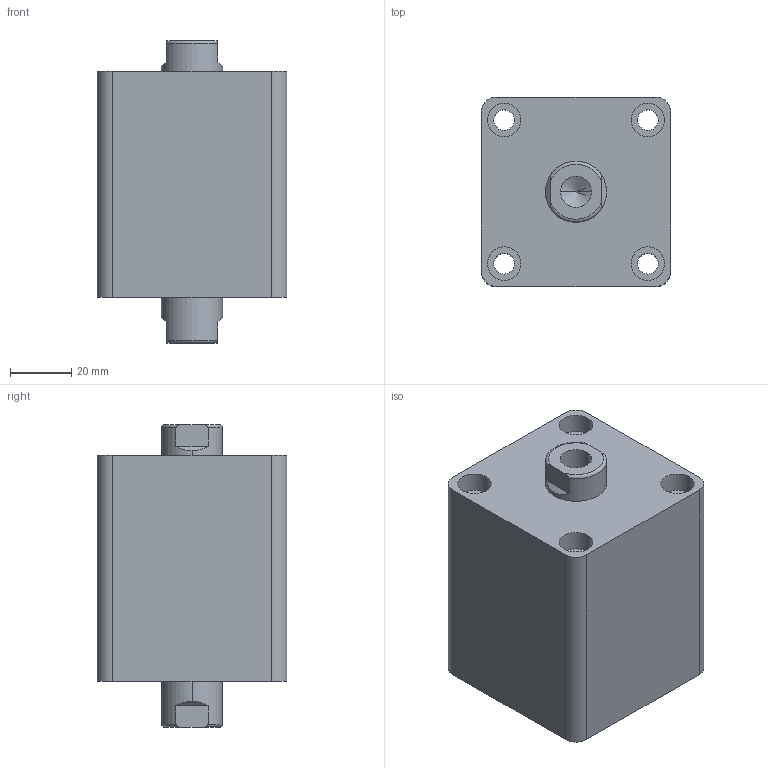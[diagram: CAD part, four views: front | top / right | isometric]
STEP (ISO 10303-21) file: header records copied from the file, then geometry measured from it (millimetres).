
FILE_DESCRIPTION (( 'STEP AP203' ), '1' );
FILE_NAME ('HTB-SW32-5N.STEP', '2019-10-07T08:49:00', ( '微软用户' ), ( '微软中国' ), 'SwSTEP 2.0', 'SolidWorks 2012', '' );
FILE_SCHEMA (( 'CONFIG_CONTROL_DESIGN' ));
Length unit declared in the file: millimetre
Products named in the file (3): HTB-SW32-5N; HTB-SW32-5N活塞杆; HTB-SW32-5掛极
Assembly tree (2 placements, depth 2):
  HTB-SW32-5N
    HTB-SW32-5掛极
    HTB-SW32-5N活塞杆
Bounding box: 62 x 62 x 99 mm (x, y, z)
Volume: 269312.5 mm3; surface area: 48011.3 mm2
Topology: 2 solids, 2 shells, 100 faces, 228 edges, 146 vertices
Faces by surface type: cylinder 48, plane 32, torus 12, cone 8
Entity records: 3237 total; most frequent: CARTESIAN_POINT 595, DIRECTION 542, ORIENTED_EDGE 448, AXIS2_PLACEMENT_3D 229, EDGE_CURVE 224, VERTEX_POINT 146, EDGE_LOOP 128, CIRCLE 124
